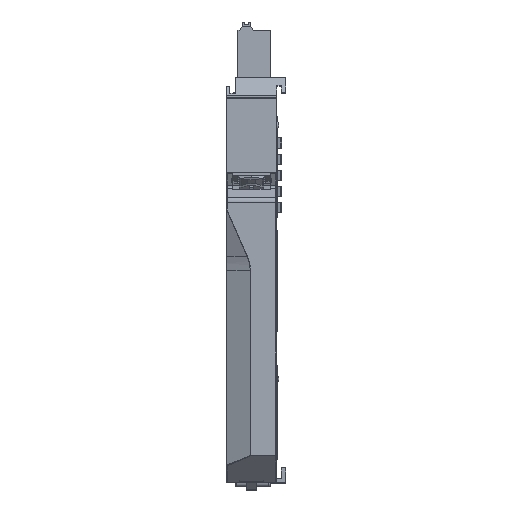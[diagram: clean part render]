
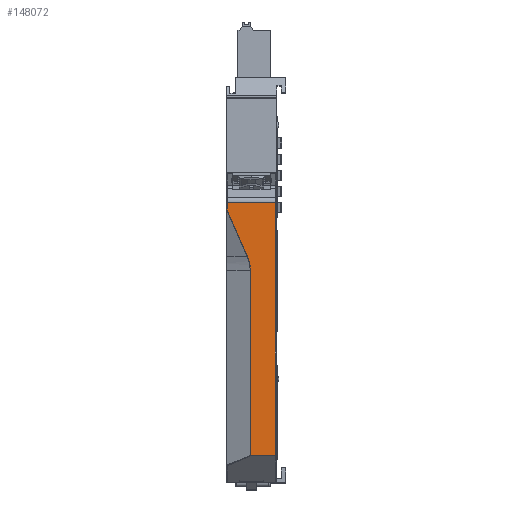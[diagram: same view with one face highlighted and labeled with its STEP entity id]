
A CAD part, top view. The second image highlights one B-rep face of the part: STEP entity #148072.
In plain terms, the highlighted planar face has unit normal (0, 0, 1).
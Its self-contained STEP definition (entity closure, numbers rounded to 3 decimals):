
#24919=DIRECTION('',(0.,1.,0.));
#24920=VECTOR('',#24919,62.384);
#24921=CARTESIAN_POINT('',(77.1,-43.474,94.2));
#24922=LINE('',#24921,#24920);
#24923=CARTESIAN_POINT('',(70.929,2.198,94.2));
#24924=CARTESIAN_POINT('',(70.931,2.552,94.2));
#24925=CARTESIAN_POINT('',(70.88,3.278,94.2));
#24926=CARTESIAN_POINT('',(70.643,4.427,94.2));
#24927=CARTESIAN_POINT('',(70.361,5.212,94.2));
#24928=CARTESIAN_POINT('',(70.19,5.611,94.2));
#24930=DIRECTION('',(-0.4,0.917,0.));
#24931=VECTOR('',#24930,12.479);
#24932=CARTESIAN_POINT('',(70.19,5.611,94.2));
#24933=LINE('',#24932,#24931);
#24938=DIRECTION('',(-1.,0.,0.));
#24939=VECTOR('',#24938,11.9);
#24940=CARTESIAN_POINT('',(77.1,18.91,94.2));
#24941=LINE('',#24940,#24939);
#24972=DIRECTION('',(0.,-1.,0.));
#24973=VECTOR('',#24972,1.861);
#24974=CARTESIAN_POINT('',(65.2,18.91,94.2));
#24975=LINE('',#24974,#24973);
#25018=DIRECTION('',(0.,-1.,0.));
#25019=VECTOR('',#25018,45.672);
#25020=CARTESIAN_POINT('',(70.929,2.198,94.2));
#25021=LINE('',#25020,#25019);
#25045=DIRECTION('',(1.,0.,0.));
#25046=VECTOR('',#25045,6.171);
#25047=CARTESIAN_POINT('',(70.929,-43.474,94.2));
#25048=LINE('',#25047,#25046);
#87715=CARTESIAN_POINT('',(77.1,-43.474,94.2));
#87716=VERTEX_POINT('',#87715);
#87717=CARTESIAN_POINT('',(77.1,18.91,94.2));
#87718=VERTEX_POINT('',#87717);
#87719=CARTESIAN_POINT('',(65.2,18.91,94.2));
#87720=VERTEX_POINT('',#87719);
#87721=CARTESIAN_POINT('',(70.929,-43.474,94.2));
#87722=VERTEX_POINT('',#87721);
#87723=CARTESIAN_POINT('',(70.929,2.198,94.2));
#87724=VERTEX_POINT('',#87723);
#87725=VERTEX_POINT('',#24928);
#87726=CARTESIAN_POINT('',(65.2,17.05,94.2));
#87727=VERTEX_POINT('',#87726);
#148052=CARTESIAN_POINT('',(64.8,20.06,94.2));
#148053=DIRECTION('',(0.,0.,1.));
#148054=DIRECTION('',(0.,1.,0.));
#148055=AXIS2_PLACEMENT_3D('',#148052,#148053,#148054);
#148056=PLANE('',#148055);
#148058=ORIENTED_EDGE('',*,*,#148057,.F.);
#148059=ORIENTED_EDGE('',*,*,#148038,.F.);
#148061=ORIENTED_EDGE('',*,*,#148060,.F.);
#148063=ORIENTED_EDGE('',*,*,#148062,.F.);
#148065=ORIENTED_EDGE('',*,*,#148064,.T.);
#148067=ORIENTED_EDGE('',*,*,#148066,.T.);
#148069=ORIENTED_EDGE('',*,*,#148068,.F.);
#148070=EDGE_LOOP('',(#148058,#148059,#148061,#148063,#148065,#148067,#148069));
#148071=FACE_OUTER_BOUND('',#148070,.F.);
#24929=B_SPLINE_CURVE_WITH_KNOTS('',3,(#24923,#24924,#24925,#24926,#24927,
#24928),.UNSPECIFIED.,.F.,.F.,(4,1,1,4),(0.,0.333,
0.667,1.),.UNSPECIFIED.);
#148038=EDGE_CURVE('',#87716,#87718,#24922,.T.);
#148057=EDGE_CURVE('',#87718,#87720,#24941,.T.);
#148060=EDGE_CURVE('',#87722,#87716,#25048,.T.);
#148062=EDGE_CURVE('',#87724,#87722,#25021,.T.);
#148064=EDGE_CURVE('',#87724,#87725,#24929,.T.);
#148066=EDGE_CURVE('',#87725,#87727,#24933,.T.);
#148068=EDGE_CURVE('',#87720,#87727,#24975,.T.);
#148072=ADVANCED_FACE('',(#148071),#148056,.T.);
